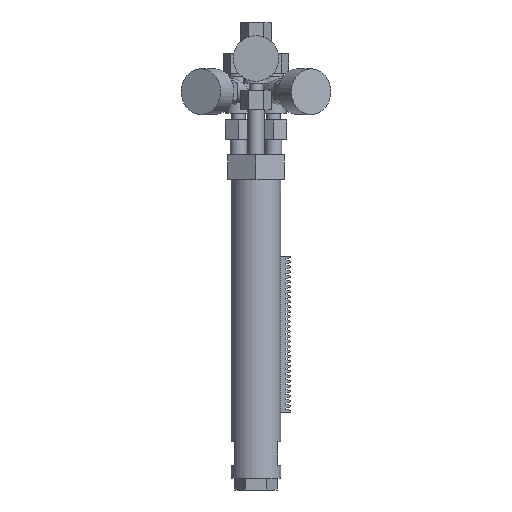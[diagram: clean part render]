
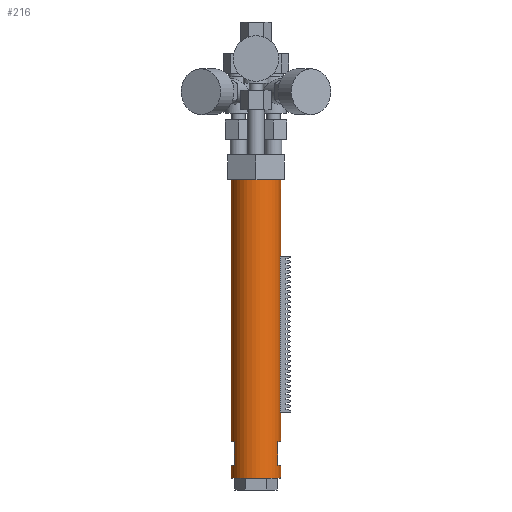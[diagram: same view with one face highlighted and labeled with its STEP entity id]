
A CAD part, left-side view. The second image highlights one B-rep face of the part: STEP entity #216.
In plain terms, the highlighted cylindrical face has radius 15 mm (diameter 30 mm), a full revolution.
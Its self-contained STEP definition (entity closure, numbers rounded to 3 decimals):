
#216=ADVANCED_FACE('',(#2826,#2828,#2830,#2832,#2834),#2836,.T.);
#2826=FACE_OUTER_BOUND('',#2827,.T.);
#2827=EDGE_LOOP('',(#4952));
#2828=FACE_OUTER_BOUND('',#2829,.T.);
#2829=EDGE_LOOP('',(#4953));
#2830=FACE_BOUND('',#2831,.T.);
#2831=EDGE_LOOP('',(#4954,#4955,#4956,#4957));
#2832=FACE_BOUND('',#2833,.T.);
#2833=EDGE_LOOP('',(#4958,#4959,#4960,#4961));
#2834=FACE_BOUND('',#2835,.T.);
#2835=EDGE_LOOP('',(#4962,#4963,#4964,#4965));
#2836=CYLINDRICAL_SURFACE('',#2837,15.);
#2837=AXIS2_PLACEMENT_3D('',#2838,#2839,#2840);
#2838=CARTESIAN_POINT('',(0.,0.,7.));
#2839=DIRECTION('',(0.,0.,1.));
#2840=DIRECTION('',(1.,0.,0.));
#4952=ORIENTED_EDGE('',*,*,#6306,.F.);
#4953=ORIENTED_EDGE('',*,*,#6305,.T.);
#4954=ORIENTED_EDGE('',*,*,#6307,.T.);
#4955=ORIENTED_EDGE('',*,*,#6308,.T.);
#4956=ORIENTED_EDGE('',*,*,#6309,.T.);
#4957=ORIENTED_EDGE('',*,*,#6310,.T.);
#4958=ORIENTED_EDGE('',*,*,#6311,.T.);
#4959=ORIENTED_EDGE('',*,*,#6312,.T.);
#4960=ORIENTED_EDGE('',*,*,#6313,.T.);
#4961=ORIENTED_EDGE('',*,*,#6314,.T.);
#4962=ORIENTED_EDGE('',*,*,#6315,.F.);
#4963=ORIENTED_EDGE('',*,*,#6316,.F.);
#4964=ORIENTED_EDGE('',*,*,#6317,.F.);
#4965=ORIENTED_EDGE('',*,*,#6318,.F.);
#6305=EDGE_CURVE('',#7015,#7015,#7016,.T.);
#6306=EDGE_CURVE('',#7017,#7017,#7018,.T.);
#6307=EDGE_CURVE('',#7019,#7020,#7021,.T.);
#6308=EDGE_CURVE('',#7020,#7022,#7023,.T.);
#6309=EDGE_CURVE('',#7022,#7024,#7025,.F.);
#6310=EDGE_CURVE('',#7024,#7019,#7026,.F.);
#6311=EDGE_CURVE('',#7027,#7028,#7029,.T.);
#6312=EDGE_CURVE('',#7028,#7030,#7031,.T.);
#6313=EDGE_CURVE('',#7030,#7032,#7033,.F.);
#6314=EDGE_CURVE('',#7032,#7027,#7034,.F.);
#6315=EDGE_CURVE('',#7035,#7036,#7037,.T.);
#6316=EDGE_CURVE('',#7038,#7035,#7039,.F.);
#6317=EDGE_CURVE('',#7040,#7038,#7041,.F.);
#6318=EDGE_CURVE('',#7036,#7040,#7042,.T.);
#7015=VERTEX_POINT('',#8249);
#7016=CIRCLE('',#8250,15.);
#7017=VERTEX_POINT('',#8254);
#7018=CIRCLE('',#8255,15.);
#7019=VERTEX_POINT('',#8259);
#7020=VERTEX_POINT('',#8260);
#7021=LINE('',#8261,#8262);
#7022=VERTEX_POINT('',#8264);
#7023=CIRCLE('',#8265,15.);
#7024=VERTEX_POINT('',#8269);
#7025=LINE('',#8270,#8271);
#7026=CIRCLE('',#8273,15.);
#7027=VERTEX_POINT('',#8277);
#7028=VERTEX_POINT('',#8278);
#7029=LINE('',#8279,#8280);
#7030=VERTEX_POINT('',#8282);
#7031=CIRCLE('',#8283,15.);
#7032=VERTEX_POINT('',#8287);
#7033=LINE('',#8288,#8289);
#7034=CIRCLE('',#8291,15.);
#7035=VERTEX_POINT('',#8295);
#7036=VERTEX_POINT('',#8296);
#7037=CIRCLE('',#8297,15.);
#7038=VERTEX_POINT('',#8301);
#7039=LINE('',#8302,#8303);
#7040=VERTEX_POINT('',#8305);
#7041=CIRCLE('',#8306,15.);
#7042=LINE('',#8310,#8311);
#8249=CARTESIAN_POINT('',(15.,0.,7.));
#8250=AXIS2_PLACEMENT_3D('',#8251,#8252,#8253);
#8251=CARTESIAN_POINT('',(0.,0.,7.));
#8252=DIRECTION('',(0.,0.,1.));
#8253=DIRECTION('',(1.,0.,0.));
#8254=CARTESIAN_POINT('',(15.,0.,187.));
#8255=AXIS2_PLACEMENT_3D('',#8256,#8257,#8258);
#8256=CARTESIAN_POINT('',(0.,0.,187.));
#8257=DIRECTION('',(0.,0.,1.));
#8258=DIRECTION('',(1.,0.,0.));
#8259=CARTESIAN_POINT('',(-7.483,-13.,15.));
#8260=CARTESIAN_POINT('',(-7.483,-13.,29.));
#8261=CARTESIAN_POINT('',(-7.483,-13.,15.));
#8262=VECTOR('',#8263,1.);
#8263=DIRECTION('',(0.,0.,1.));
#8264=CARTESIAN_POINT('',(7.483,-13.,29.));
#8265=AXIS2_PLACEMENT_3D('',#8266,#8267,#8268);
#8266=CARTESIAN_POINT('',(0.,0.,29.));
#8267=DIRECTION('',(0.,0.,1.));
#8268=DIRECTION('',(-0.499,-0.867,0.));
#8269=CARTESIAN_POINT('',(7.483,-13.,15.));
#8270=CARTESIAN_POINT('',(7.483,-13.,15.));
#8271=VECTOR('',#8272,1.);
#8272=DIRECTION('',(0.,0.,1.));
#8273=AXIS2_PLACEMENT_3D('',#8274,#8275,#8276);
#8274=CARTESIAN_POINT('',(0.,0.,15.));
#8275=DIRECTION('',(-0.,-0.,1.));
#8276=DIRECTION('',(-0.499,-0.867,0.));
#8277=CARTESIAN_POINT('',(7.483,13.,15.));
#8278=CARTESIAN_POINT('',(7.483,13.,29.));
#8279=CARTESIAN_POINT('',(7.483,13.,15.));
#8280=VECTOR('',#8281,1.);
#8281=DIRECTION('',(0.,0.,1.));
#8282=CARTESIAN_POINT('',(-7.483,13.,29.));
#8283=AXIS2_PLACEMENT_3D('',#8284,#8285,#8286);
#8284=CARTESIAN_POINT('',(0.,0.,29.));
#8285=DIRECTION('',(0.,0.,1.));
#8286=DIRECTION('',(0.499,0.867,0.));
#8287=CARTESIAN_POINT('',(-7.483,13.,15.));
#8288=CARTESIAN_POINT('',(-7.483,13.,15.));
#8289=VECTOR('',#8290,1.);
#8290=DIRECTION('',(0.,0.,1.));
#8291=AXIS2_PLACEMENT_3D('',#8292,#8293,#8294);
#8292=CARTESIAN_POINT('',(0.,0.,15.));
#8293=DIRECTION('',(-0.,-0.,1.));
#8294=DIRECTION('',(0.499,0.867,0.));
#8295=CARTESIAN_POINT('',(-3.,-14.697,47.));
#8296=CARTESIAN_POINT('',(3.,-14.697,47.));
#8297=AXIS2_PLACEMENT_3D('',#8298,#8299,#8300);
#8298=CARTESIAN_POINT('',(0.,0.,47.));
#8299=DIRECTION('',(-0.,-0.,1.));
#8300=DIRECTION('',(-0.2,-0.98,0.));
#8301=CARTESIAN_POINT('',(-3.,-14.697,141.));
#8302=CARTESIAN_POINT('',(-3.,-14.697,47.));
#8303=VECTOR('',#8304,1.);
#8304=DIRECTION('',(0.,0.,1.));
#8305=CARTESIAN_POINT('',(3.,-14.697,141.));
#8306=AXIS2_PLACEMENT_3D('',#8307,#8308,#8309);
#8307=CARTESIAN_POINT('',(0.,0.,141.));
#8308=DIRECTION('',(0.,0.,1.));
#8309=DIRECTION('',(-0.2,-0.98,0.));
#8310=CARTESIAN_POINT('',(3.,-14.697,47.));
#8311=VECTOR('',#8312,1.);
#8312=DIRECTION('',(0.,0.,1.));
